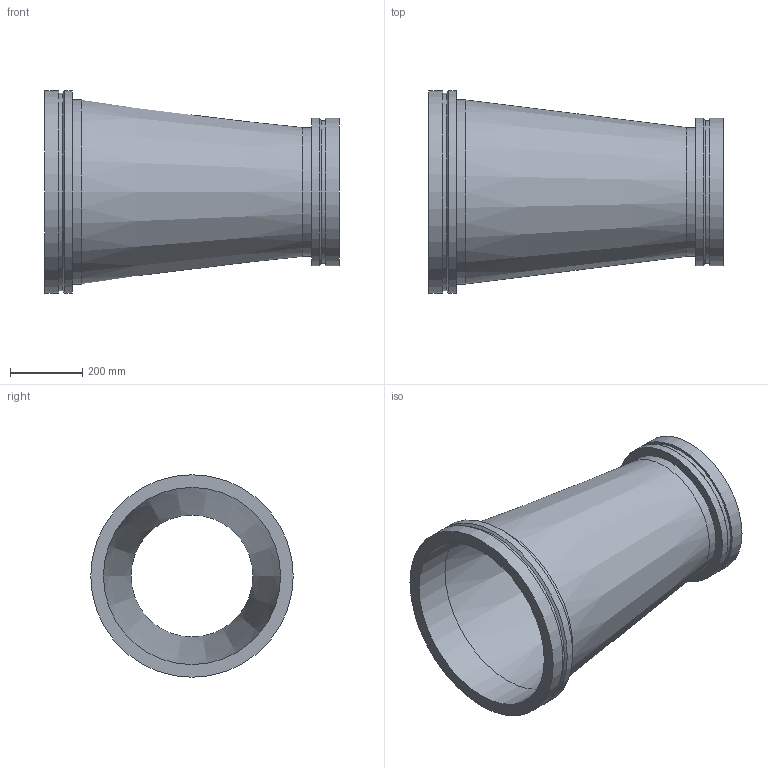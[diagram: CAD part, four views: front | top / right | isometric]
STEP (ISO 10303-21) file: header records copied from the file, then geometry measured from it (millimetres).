
FILE_DESCRIPTION(/* description */ ('VIC REDUCER CONCENTRIC No W50 VR','CAx-IF Rec.Pracs.---Representation and Presentation of Product Manufacturing Information (PMI)---4.0---2014-10-13'),/* implementation_level */ '2;1');
FILE_NAME(/* name */ 'C:\Users\kkamble\AppData\Roaming\Autodesk\ApplicationPlugins\Back Up\Victaulic_Vic-Ring_Reducer Concentric_No W50 VR (AGR)\Victaulic_Vic-Ring_Reducer Concentric_No W50 VR (AGR)_20.0x14.0 (500x350).stp',/* time_stamp */ '2020-09-10T11:45:27+05:00',/* author */ ('cps_temp'),/* organization */ ('Victaulic'),/* preprocessor_version */ 'ST-DEVELOPER v17.2',/* originating_system */ 'Autodesk Inventor 2019',/* authorisation */ '');
FILE_SCHEMA (('AP242_MANAGED_MODEL_BASED_3D_ENGINEERING_MIM_LF { 1 0 10303 442 1 1 4 }'));
Length unit declared in the file: inch
Products named in the file (1): W50 VR-20.0x14.0
Bounding box: 812.8 x 558.8 x 558.8 mm (x, y, z)
Volume: 15560106.6 mm3; surface area: 2391387.1 mm2
Topology: 1 solids, 1 shells, 20 faces, 54 edges, 40 vertices
Faces by surface type: cylinder 10, plane 6, cone 4
Full cylindrical faces by diameter (mm): 336.55 x1, 355.6 x1, 393.7 x1, 406.4 x2, 488.95 x1, 508 x1, 546.1 x1, 558.8 x2
Entity records: 830 total; most frequent: DIRECTION 162, CARTESIAN_POINT 132, ORIENTED_EDGE 108, AXIS2_PLACEMENT_3D 74, EDGE_CURVE 54, CIRCLE 40, VERTEX_POINT 40, EDGE_LOOP 26
